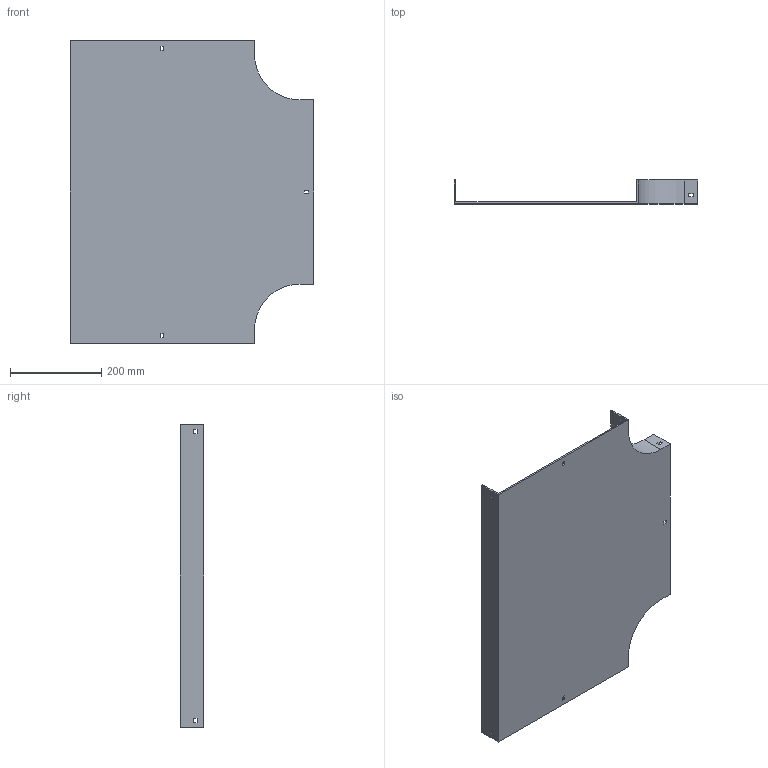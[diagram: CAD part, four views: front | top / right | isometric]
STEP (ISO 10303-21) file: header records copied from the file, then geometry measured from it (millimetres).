
FILE_DESCRIPTION (( 'STEP AP214' ), '1' );
FILE_NAME ('15F1B400.step', '2025-02-21T13:04:22', ( '' ), ( '' ), 'SwSTEP 2.0', 'SolidWorks 2023', '' );
FILE_SCHEMA (( 'AUTOMOTIVE_DESIGN' ));
Length unit declared in the file: millimetre
Products named in the file (1): 15F1B400
Bounding box: 534 x 52 x 664 mm (x, y, z)
Volume: 1322999.7 mm3; surface area: 766143.4 mm2
Topology: 1 solids, 1 shells, 58 faces, 168 edges, 112 vertices
Faces by surface type: plane 54, cylinder 4
Entity records: 1939 total; most frequent: CARTESIAN_POINT 339, ORIENTED_EDGE 336, DIRECTION 294, EDGE_CURVE 168, VECTOR 160, LINE 160, VERTEX_POINT 112, EDGE_LOOP 76
